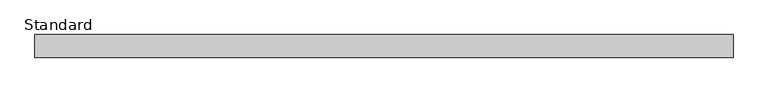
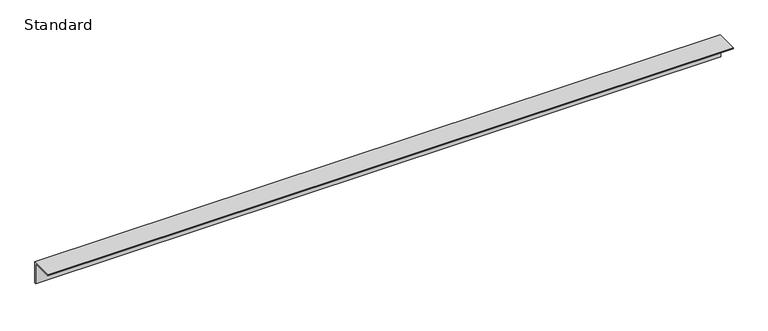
"""IFC4 building model written with IfcOpenShell, lengths in millimetres: furniture geometry, X_Vanity-Angle-Duracube-Bench Support : Standard."""

from ifc_helpers import new_model, si_unit, frame, origin, place, context, project, spatial, polyline, outline, extrude, source, transform, mapped, element, save


def standard_bb7d0adb(model_context):
    return source(origin(), model_context, "Body", "SweptSolid", [
        extrude(outline(polyline([(0.0, 0.0), (-2.0, 0.0), (-2.0, 38.0), (-40.0, 38.0), (-40.0, 40.0), (0.0, 40.0), (0.0, 0.0)])), frame((-571.5496736, 0.0, 0.0), z_axis=(1.0, 0.0, 0.0), x_axis=(0.0, 1.0, 0.0)), (0.0, 0.0, 1.0), 1232.5),
    ])


if __name__ == "__main__":
    model = new_model("IFC4")
    model_context = context("Model", 3, world=origin())
    ifc_project = project(units=[si_unit("LENGTHUNIT", "METRE", prefix="MILLI")], contexts=[model_context])
    site = spatial("IfcSite", under=ifc_project)
    building = spatial("IfcBuilding", under=site)
    placement = place(None, origin())
    standard_shape = standard_bb7d0adb(model_context)
    element("IfcFurniture", 1, ObjectType="X_Vanity-Angle-Duracube-Bench Support : Standard", at=placement, inside=building, context=model_context, shape_type="MappedRepresentation", body=[
        mapped(standard_shape, transform((0.0, 0.0, 0.0), x_axis=(1.0, 0.0, 0.0), y_axis=(0.0, 1.0, 0.0), z_axis=(0.0, 0.0, 1.0))),
    ])
    save(model, "model.ifc")
